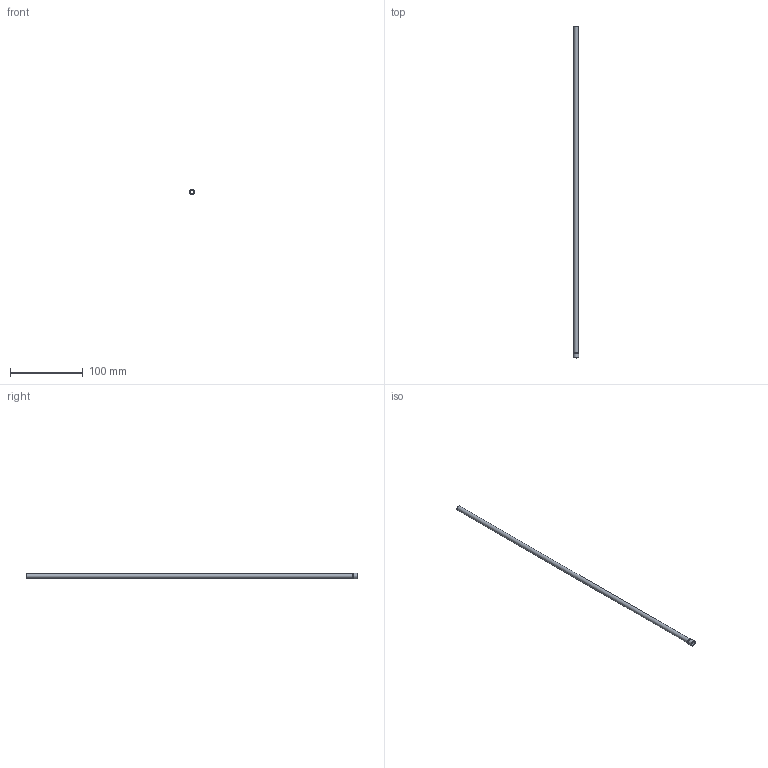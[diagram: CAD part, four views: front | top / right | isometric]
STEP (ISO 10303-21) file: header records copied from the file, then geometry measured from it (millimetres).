
FILE_DESCRIPTION(/* description */ (''),/* implementation_level */ '2;1');
FILE_NAME(/* name */ 'C:/Users/drich/Desktop/HF250T-18 v1.step',/* time_stamp */ '2019-12-30T13:30:10-06:00',/* author */ (''),/* organization */ (''),/* preprocessor_version */ 'ST-DEVELOPER v18',/* originating_system */ 'Autodesk Translation Framework v8.12.0.6',/* authorisation */ '');
FILE_SCHEMA (('AUTOMOTIVE_DESIGN { 1 0 10303 214 3 1 1 }'));
Length unit declared in the file: inch
Products named in the file (1): HF250T-18
Bounding box: 7.98 x 457.2 x 7.98 mm (x, y, z)
Volume: 2345.7 mm3; surface area: 17582.4 mm2
Topology: 1 solids, 1 shells, 12 faces, 30 edges, 22 vertices
Faces by surface type: plane 4, cylinder 4, torus 3, cone 1
Full cylindrical faces by diameter (mm): 5.842 x1, 6.35 x1, 7.818 x1, 7.976 x1
Entity records: 426 total; most frequent: DIRECTION 81, CARTESIAN_POINT 65, ORIENTED_EDGE 60, AXIS2_PLACEMENT_3D 38, EDGE_CURVE 30, CIRCLE 25, VERTEX_POINT 22, EDGE_LOOP 16
